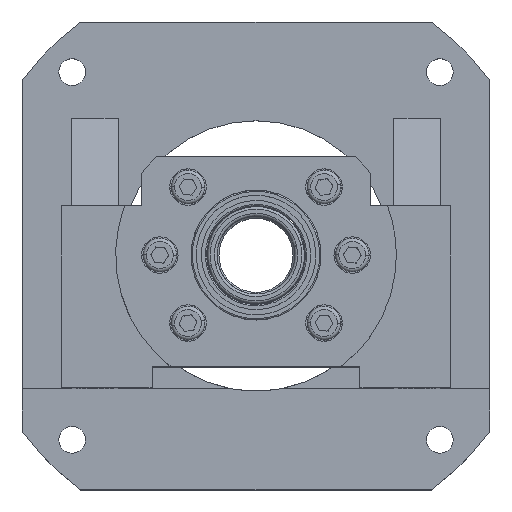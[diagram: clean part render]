
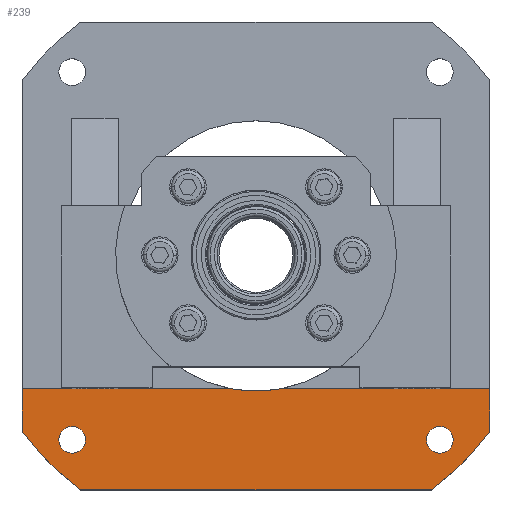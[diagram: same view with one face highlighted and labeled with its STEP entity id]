
A CAD part, top view. The second image highlights one B-rep face of the part: STEP entity #239.
In plain terms, the highlighted planar face has unit normal (0, 0, 1).
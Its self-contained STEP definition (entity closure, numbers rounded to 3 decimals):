
#12 = EDGE_CURVE ( 'NONE', #7866, #4950, #7825, .T. ) ;
#132 = AXIS2_PLACEMENT_3D ( 'NONE', #2336, #9050, #3299 ) ;
#234 = LINE ( 'NONE', #10774, #5039 ) ;
#239 = ADVANCED_FACE ( 'NONE', ( #7962, #8575, #914 ), #5974, .T. ) ;
#282 = CARTESIAN_POINT ( 'NONE',  ( 10.099, -51.01, 21. ) ) ;
#431 = EDGE_LOOP ( 'NONE', ( #10950, #5406, #11013, #1249, #11658, #3587, #6391, #11542 ) ) ;
#439 = VERTEX_POINT ( 'NONE', #12252 ) ;
#657 = EDGE_CURVE ( 'NONE', #2020, #8716, #1413, .T. ) ;
#662 = DIRECTION ( 'NONE',  ( 0., 0., 1. ) ) ;
#763 = EDGE_CURVE ( 'NONE', #6617, #10221, #2753, .T. ) ;
#911 = AXIS2_PLACEMENT_3D ( 'NONE', #9181, #8423, #7470 ) ;
#914 = FACE_BOUND ( 'NONE', #8237, .T. ) ;
#1159 = CARTESIAN_POINT ( 'NONE',  ( -90., -67.5, 21. ) ) ;
#1249 = ORIENTED_EDGE ( 'NONE', *, *, #3716, .T. ) ;
#1413 = LINE ( 'NONE', #5918, #4248 ) ;
#1452 = AXIS2_PLACEMENT_3D ( 'NONE', #6420, #662, #7370 ) ;
#1464 = VERTEX_POINT ( 'NONE', #5265 ) ;
#1518 = ORIENTED_EDGE ( 'NONE', *, *, #11688, .F. ) ;
#1852 = CARTESIAN_POINT ( 'NONE',  ( 70.711, -70.711, 21. ) ) ;
#1872 = CARTESIAN_POINT ( 'NONE',  ( -75.861, -70.711, 21. ) ) ;
#2020 = VERTEX_POINT ( 'NONE', #9303 ) ;
#2038 = CIRCLE ( 'NONE', #132, 5.15 ) ;
#2127 = CIRCLE ( 'NONE', #3910, 5.15 ) ;
#2294 = VERTEX_POINT ( 'NONE', #10292 ) ;
#2304 = CARTESIAN_POINT ( 'NONE',  ( 70.711, -70.711, 21. ) ) ;
#2336 = CARTESIAN_POINT ( 'NONE',  ( -70.711, -70.711, 21. ) ) ;
#2397 = VECTOR ( 'NONE', #10768, 1000. ) ;
#2587 = CARTESIAN_POINT ( 'NONE',  ( 67.5, -90., 21. ) ) ;
#2667 = AXIS2_PLACEMENT_3D ( 'NONE', #6545, #10746, #10374 ) ;
#2753 = CIRCLE ( 'NONE', #911, 52. ) ;
#2814 = DIRECTION ( 'NONE',  ( 1., 0., 0. ) ) ;
#2954 = CARTESIAN_POINT ( 'NONE',  ( -91.047, -51.01, 21. ) ) ;
#2966 = DIRECTION ( 'NONE',  ( 0., 1., 0. ) ) ;
#3277 = DIRECTION ( 'NONE',  ( 1., 0., 0. ) ) ;
#3299 = DIRECTION ( 'NONE',  ( 1., 0., 0. ) ) ;
#3399 = ORIENTED_EDGE ( 'NONE', *, *, #4190, .F. ) ;
#3509 = CARTESIAN_POINT ( 'NONE',  ( 75.861, -70.711, 21. ) ) ;
#3587 = ORIENTED_EDGE ( 'NONE', *, *, #6290, .T. ) ;
#3716 = EDGE_CURVE ( 'NONE', #2294, #7866, #5259, .T. ) ;
#3910 = AXIS2_PLACEMENT_3D ( 'NONE', #2304, #9016, #3277 ) ;
#4116 = CARTESIAN_POINT ( 'NONE',  ( 90., -51.01, 21. ) ) ;
#4127 = CARTESIAN_POINT ( 'NONE',  ( -90., -90., 21. ) ) ;
#4151 = LINE ( 'NONE', #6752, #8961 ) ;
#4190 = EDGE_CURVE ( 'NONE', #11134, #439, #9253, .T. ) ;
#4248 = VECTOR ( 'NONE', #6575, 1000. ) ;
#4842 = DIRECTION ( 'NONE',  ( 1., 0., 0. ) ) ;
#4850 = AXIS2_PLACEMENT_3D ( 'NONE', #5228, #5267, #5314 ) ;
#4950 = VERTEX_POINT ( 'NONE', #7002 ) ;
#4989 = AXIS2_PLACEMENT_3D ( 'NONE', #1852, #8566, #2814 ) ;
#5039 = VECTOR ( 'NONE', #11758, 1000. ) ;
#5124 = DIRECTION ( 'NONE',  ( 0., 0., 1. ) ) ;
#5228 = CARTESIAN_POINT ( 'NONE',  ( 0., 0., 21. ) ) ;
#5259 = LINE ( 'NONE', #4127, #2397 ) ;
#5265 = CARTESIAN_POINT ( 'NONE',  ( 65.561, -70.711, 21. ) ) ;
#5267 = DIRECTION ( 'NONE',  ( 0., 0., 1. ) ) ;
#5314 = DIRECTION ( 'NONE',  ( 1., 0., 0. ) ) ;
#5406 = ORIENTED_EDGE ( 'NONE', *, *, #657, .T. ) ;
#5918 = CARTESIAN_POINT ( 'NONE',  ( -90., 90., 21. ) ) ;
#5974 = PLANE ( 'NONE',  #2667 ) ;
#6290 = EDGE_CURVE ( 'NONE', #4950, #9084, #4151, .T. ) ;
#6334 = VECTOR ( 'NONE', #4842, 1000. ) ;
#6391 = ORIENTED_EDGE ( 'NONE', *, *, #9717, .F. ) ;
#6420 = CARTESIAN_POINT ( 'NONE',  ( 0., 0., 21. ) ) ;
#6493 = EDGE_CURVE ( 'NONE', #439, #11134, #2038, .T. ) ;
#6545 = CARTESIAN_POINT ( 'NONE',  ( -104.626, -111., 21. ) ) ;
#6575 = DIRECTION ( 'NONE',  ( 0., -1., 0. ) ) ;
#6617 = VERTEX_POINT ( 'NONE', #282 ) ;
#6752 = CARTESIAN_POINT ( 'NONE',  ( 90., 90., 21. ) ) ;
#6804 = CARTESIAN_POINT ( 'NONE',  ( -10.099, -51.01, 21. ) ) ;
#7002 = CARTESIAN_POINT ( 'NONE',  ( 90., -67.5, 21. ) ) ;
#7065 = CIRCLE ( 'NONE', #1452, 112.5 ) ;
#7174 = EDGE_CURVE ( 'NONE', #2020, #10221, #234, .T. ) ;
#7370 = DIRECTION ( 'NONE',  ( 1., 0., 0. ) ) ;
#7470 = DIRECTION ( 'NONE',  ( 1., 0., 0. ) ) ;
#7486 = ORIENTED_EDGE ( 'NONE', *, *, #9159, .F. ) ;
#7825 = CIRCLE ( 'NONE', #4850, 112.5 ) ;
#7866 = VERTEX_POINT ( 'NONE', #2587 ) ;
#7962 = FACE_OUTER_BOUND ( 'NONE', #431, .T. ) ;
#8237 = EDGE_LOOP ( 'NONE', ( #3399, #10831 ) ) ;
#8388 = VERTEX_POINT ( 'NONE', #3509 ) ;
#8423 = DIRECTION ( 'NONE',  ( 0., 0., -1. ) ) ;
#8566 = DIRECTION ( 'NONE',  ( 0., 0., 1. ) ) ;
#8575 = FACE_BOUND ( 'NONE', #10123, .T. ) ;
#8716 = VERTEX_POINT ( 'NONE', #1159 ) ;
#8961 = VECTOR ( 'NONE', #2966, 1000. ) ;
#9016 = DIRECTION ( 'NONE',  ( 0., 0., 1. ) ) ;
#9050 = DIRECTION ( 'NONE',  ( 0., 0., 1. ) ) ;
#9084 = VERTEX_POINT ( 'NONE', #4116 ) ;
#9159 = EDGE_CURVE ( 'NONE', #8388, #1464, #2127, .T. ) ;
#9181 = CARTESIAN_POINT ( 'NONE',  ( 0., 0., 21. ) ) ;
#9253 = CIRCLE ( 'NONE', #10165, 5.15 ) ;
#9303 = CARTESIAN_POINT ( 'NONE',  ( -90., -51.01, 21. ) ) ;
#9717 = EDGE_CURVE ( 'NONE', #6617, #9084, #11430, .T. ) ;
#10123 = EDGE_LOOP ( 'NONE', ( #1518, #7486 ) ) ;
#10165 = AXIS2_PLACEMENT_3D ( 'NONE', #10871, #5124, #11829 ) ;
#10221 = VERTEX_POINT ( 'NONE', #6804 ) ;
#10292 = CARTESIAN_POINT ( 'NONE',  ( -67.5, -90., 21. ) ) ;
#10374 = DIRECTION ( 'NONE',  ( 1., 0., 0. ) ) ;
#10472 = EDGE_CURVE ( 'NONE', #8716, #2294, #7065, .T. ) ;
#10746 = DIRECTION ( 'NONE',  ( 0., 0., 1. ) ) ;
#10768 = DIRECTION ( 'NONE',  ( 1., 0., 0. ) ) ;
#10774 = CARTESIAN_POINT ( 'NONE',  ( -91.047, -51.01, 21. ) ) ;
#10831 = ORIENTED_EDGE ( 'NONE', *, *, #6493, .F. ) ;
#10871 = CARTESIAN_POINT ( 'NONE',  ( -70.711, -70.711, 21. ) ) ;
#10950 = ORIENTED_EDGE ( 'NONE', *, *, #7174, .F. ) ;
#11013 = ORIENTED_EDGE ( 'NONE', *, *, #10472, .T. ) ;
#11134 = VERTEX_POINT ( 'NONE', #1872 ) ;
#11430 = LINE ( 'NONE', #2954, #6334 ) ;
#11542 = ORIENTED_EDGE ( 'NONE', *, *, #763, .T. ) ;
#11658 = ORIENTED_EDGE ( 'NONE', *, *, #12, .T. ) ;
#11688 = EDGE_CURVE ( 'NONE', #1464, #8388, #12216, .T. ) ;
#11758 = DIRECTION ( 'NONE',  ( 1., 0., 0. ) ) ;
#11829 = DIRECTION ( 'NONE',  ( 1., 0., 0. ) ) ;
#12216 = CIRCLE ( 'NONE', #4989, 5.15 ) ;
#12252 = CARTESIAN_POINT ( 'NONE',  ( -65.561, -70.711, 21. ) ) ;
